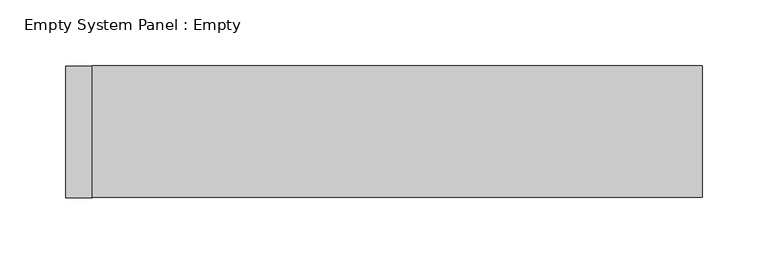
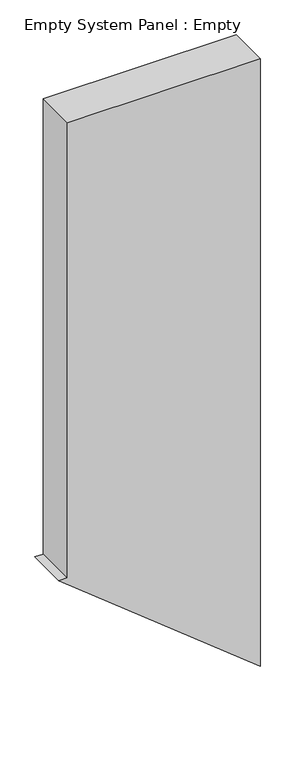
"""IFC4 building model written with IfcOpenShell, lengths in millimetres: plate geometry, Empty System Panel : Empty."""

from ifc_helpers import new_model, si_unit, frame, origin, place, context, project, spatial, polyline, outline, extrude, source, transform, mapped, element, save


def empty_system_panel_empty_09159bb9(model_context):
    return source(origin(), model_context, "Body", "SweptSolid", [
        extrude(outline(polyline([(387.504061, -241.7391304), (0.0, 241.7391304), (1544.7626856, 241.7391304), (1544.7626856, -221.7391304), (387.504061, -221.7391304), (387.504061, -241.7391304)])), frame((0.0, -50.0, 0.0), z_axis=(0.0, 1.0, 0.0), x_axis=(0.0, 0.0, 1.0)), (0.0, 0.0, 1.0), 100.0),
    ])


if __name__ == "__main__":
    model = new_model("IFC4")
    model_context = context("Model", 3, world=origin())
    ifc_project = project(units=[si_unit("LENGTHUNIT", "METRE", prefix="MILLI")], contexts=[model_context])
    site = spatial("IfcSite", under=ifc_project)
    building = spatial("IfcBuilding", under=site)
    placement = place(None, origin())
    empty_system_panel_empty_shape = empty_system_panel_empty_09159bb9(model_context)
    element("IfcPlate", 1, ObjectType="Empty System Panel : Empty", at=placement, inside=building, context=model_context, shape_type="MappedRepresentation", body=[
        mapped(empty_system_panel_empty_shape, transform((0.0, 0.0, 0.0), x_axis=(1.0, 0.0, 0.0), y_axis=(0.0, 1.0, 0.0), z_axis=(0.0, 0.0, 1.0))),
    ])
    save(model, "model.ifc")
